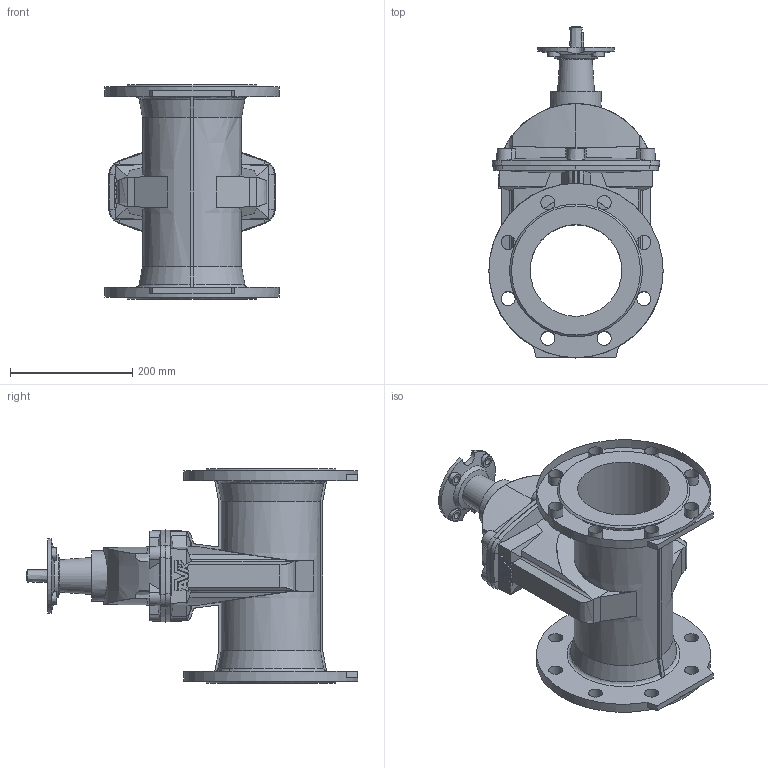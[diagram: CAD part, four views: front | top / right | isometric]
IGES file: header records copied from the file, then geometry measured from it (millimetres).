
Start section: SolidWorks IGES file using analytic representation for surfaces
Global section: file name: \\avksan2\techshare\PBM outline export from Enovia\O_15_72_DN150_X1XXX099_AA0.igs; native system: SolidWorks 2012; preprocessor: SolidWorks 2012; author: pbm; date: 170310.095503; units: inch
Bounding box: 285 x 542.5 x 350 mm (x, y, z)
Surface area: 754619.3 mm2 (no closed solid volume)
Topology: 0 solids, 0 shells, 364 faces, 2128 edges, 2065 vertices
Faces by surface type: bspline 185, revolution 179
